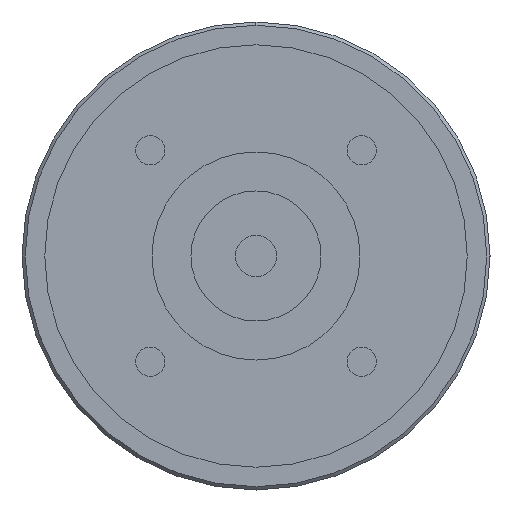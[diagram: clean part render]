
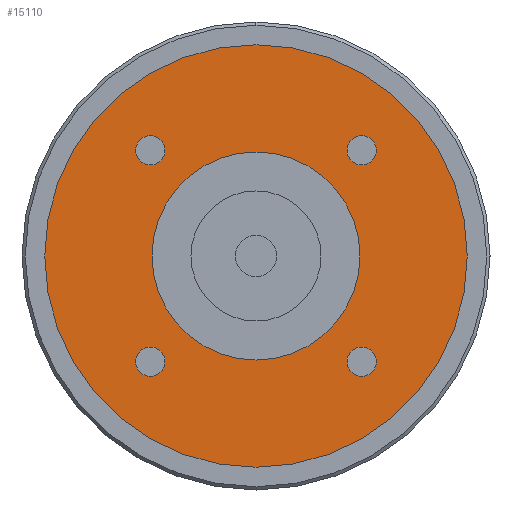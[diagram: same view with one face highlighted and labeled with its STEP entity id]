
A CAD part, left-side view. The second image highlights one B-rep face of the part: STEP entity #15110.
In plain terms, the highlighted planar face has unit normal (-1, 0, 0) as drawn and (0, 0, -1) by its records, which use the part's own axes.
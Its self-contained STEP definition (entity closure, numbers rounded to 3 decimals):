
#11930=CARTESIAN_POINT('',(-14.013,-16.263,-91.));
#11940=VERTEX_POINT('',#11930);
#12120=CARTESIAN_POINT('',(-18.513,-16.263,-91.));
#12130=VERTEX_POINT('',#12120);
#12160=CARTESIAN_POINT('',(-16.263,-16.263,-91.));
#12170=DIRECTION('',(0.,0.,-1.));
#12180=DIRECTION('',(0.,-1.,0.));
#12190=AXIS2_PLACEMENT_3D('',#12160,#12170,#12180);
#12200=CIRCLE('',#12190,2.25);
#12210=CARTESIAN_POINT('',(-16.263,-18.513,-91.));
#12220=VERTEX_POINT('',#12210);
#12230=EDGE_CURVE('',#12220,#12130,#12200,.T.);
#12250=EDGE_CURVE('',#11940,#12220,#12200,.T.);
#12350=CARTESIAN_POINT('',(0.,0.,
-91.));
#12360=DIRECTION('',(0.,0.,1.));
#12370=DIRECTION('',(0.,-1.,0.));
#12380=AXIS2_PLACEMENT_3D('',#12350,#12360,#12370);
#12390=CIRCLE('',#12380,16.);
#12400=CARTESIAN_POINT('',(0.,-16.,-91.));
#12410=VERTEX_POINT('',#12400);
#12420=CARTESIAN_POINT('',(16.,0.,-91.));
#12430=VERTEX_POINT('',#12420);
#12440=EDGE_CURVE('',#12410,#12430,#12390,.T.);
#12670=CARTESIAN_POINT('',(-16.,0.,-91.));
#12680=VERTEX_POINT('',#12670);
#12710=EDGE_CURVE('',#12680,#12410,#12390,.T.);
#14040=CARTESIAN_POINT('',(32.5,0.,-91.));
#14050=VERTEX_POINT('',#14040);
#14080=CARTESIAN_POINT('',(0.,0.,
-91.));
#14090=DIRECTION('',(0.,0.,1.));
#14100=DIRECTION('',(0.,-1.,0.));
#14110=AXIS2_PLACEMENT_3D('',#14080,#14090,#14100);
#14120=CIRCLE('',#14110,32.5);
#14130=CARTESIAN_POINT('',(0.,-32.5,-91.));
#14140=VERTEX_POINT('',#14130);
#14150=EDGE_CURVE('',#14140,#14050,#14120,.T.);
#14170=CARTESIAN_POINT('',(-32.5,0.,-91.));
#14180=VERTEX_POINT('',#14170);
#14190=EDGE_CURVE('',#14180,#14140,#14120,.T.);
#14310=CARTESIAN_POINT('',(0.,0.,
-91.));
#14320=DIRECTION('',(0.,0.,1.));
#14330=DIRECTION('',(-1.,0.,0.));
#14340=AXIS2_PLACEMENT_3D('',#14310,#14320,#14330);
#14350=PLANE('',#14340);
#14360=CARTESIAN_POINT('',(16.263,-16.263,-91.));
#14370=DIRECTION('',(0.,0.,-1.));
#14380=DIRECTION('',(1.,0.,0.));
#14390=AXIS2_PLACEMENT_3D('',#14360,#14370,#14380);
#14400=CIRCLE('',#14390,2.25);
#14410=CARTESIAN_POINT('',(18.513,-16.263,-91.));
#14420=VERTEX_POINT('',#14410);
#14430=CARTESIAN_POINT('',(16.263,-18.513,-91.));
#14440=VERTEX_POINT('',#14430);
#14450=EDGE_CURVE('',#14420,#14440,#14400,.T.);
#14460=ORIENTED_EDGE('',*,*,#14450,.F.);
#14470=CARTESIAN_POINT('',(16.263,-14.013,-91.));
#14480=VERTEX_POINT('',#14470);
#14490=EDGE_CURVE('',#14440,#14480,#14400,.T.);
#14500=ORIENTED_EDGE('',*,*,#14490,.F.);
#14510=EDGE_CURVE('',#14480,#14420,#14400,.T.);
#14520=ORIENTED_EDGE('',*,*,#14510,.F.);
#14530=EDGE_LOOP('',(#14520,#14500,#14460));
#14540=FACE_BOUND('',#14530,.T.);
#14550=CARTESIAN_POINT('',(16.263,16.263,-91.));
#14560=DIRECTION('',(0.,0.,-1.));
#14570=DIRECTION('',(0.,1.,0.));
#14580=AXIS2_PLACEMENT_3D('',#14550,#14560,#14570);
#14590=CIRCLE('',#14580,2.25);
#14600=CARTESIAN_POINT('',(16.263,18.513,-91.));
#14610=VERTEX_POINT('',#14600);
#14620=CARTESIAN_POINT('',(18.513,16.263,-91.));
#14630=VERTEX_POINT('',#14620);
#14640=EDGE_CURVE('',#14610,#14630,#14590,.T.);
#14650=ORIENTED_EDGE('',*,*,#14640,.F.);
#14660=CARTESIAN_POINT('',(14.013,16.263,-91.));
#14670=VERTEX_POINT('',#14660);
#14680=EDGE_CURVE('',#14630,#14670,#14590,.T.);
#14690=ORIENTED_EDGE('',*,*,#14680,.F.);
#14700=EDGE_CURVE('',#14670,#14610,#14590,.T.);
#14710=ORIENTED_EDGE('',*,*,#14700,.F.);
#14720=EDGE_LOOP('',(#14710,#14690,#14650));
#14730=FACE_BOUND('',#14720,.T.);
#14740=CARTESIAN_POINT('',(-16.263,16.263,-91.));
#14750=DIRECTION('',(0.,0.,-1.));
#14760=DIRECTION('',(-1.,0.,0.));
#14770=AXIS2_PLACEMENT_3D('',#14740,#14750,#14760);
#14780=CIRCLE('',#14770,2.25);
#14790=CARTESIAN_POINT('',(-18.513,16.263,-91.));
#14800=VERTEX_POINT('',#14790);
#14810=CARTESIAN_POINT('',(-16.263,18.513,-91.));
#14820=VERTEX_POINT('',#14810);
#14830=EDGE_CURVE('',#14800,#14820,#14780,.T.);
#14840=ORIENTED_EDGE('',*,*,#14830,.F.);
#14850=CARTESIAN_POINT('',(-16.263,14.013,-91.));
#14860=VERTEX_POINT('',#14850);
#14870=EDGE_CURVE('',#14820,#14860,#14780,.T.);
#14880=ORIENTED_EDGE('',*,*,#14870,.F.);
#14890=EDGE_CURVE('',#14860,#14800,#14780,.T.);
#14900=ORIENTED_EDGE('',*,*,#14890,.F.);
#14910=EDGE_LOOP('',(#14900,#14880,#14840));
#14920=FACE_BOUND('',#14910,.T.);
#14930=ORIENTED_EDGE('',*,*,#12230,.F.);
#14940=EDGE_CURVE('',#12130,#11940,#12200,.T.);
#14950=ORIENTED_EDGE('',*,*,#14940,.F.);
#14960=ORIENTED_EDGE('',*,*,#12250,.F.);
#14970=EDGE_LOOP('',(#14960,#14950,#14930));
#14980=FACE_BOUND('',#14970,.T.);
#14990=ORIENTED_EDGE('',*,*,#14150,.F.);
#15000=EDGE_CURVE('',#14050,#14180,#14120,.T.);
#15010=ORIENTED_EDGE('',*,*,#15000,.F.);
#15020=ORIENTED_EDGE('',*,*,#14190,.F.);
#15030=EDGE_LOOP('',(#15020,#15010,#14990));
#15040=FACE_OUTER_BOUND('',#15030,.T.);
#15050=EDGE_CURVE('',#12430,#12680,#12390,.T.);
#15060=ORIENTED_EDGE('',*,*,#15050,.T.);
#15070=ORIENTED_EDGE('',*,*,#12440,.T.);
#15080=ORIENTED_EDGE('',*,*,#12710,.T.);
#15090=EDGE_LOOP('',(#15080,#15070,#15060));
#15100=FACE_BOUND('',#15090,.T.);
#15110=ADVANCED_FACE('',(#14540,#14730,#14920,#14980,#15040,#15100),
#14350,.F.);
